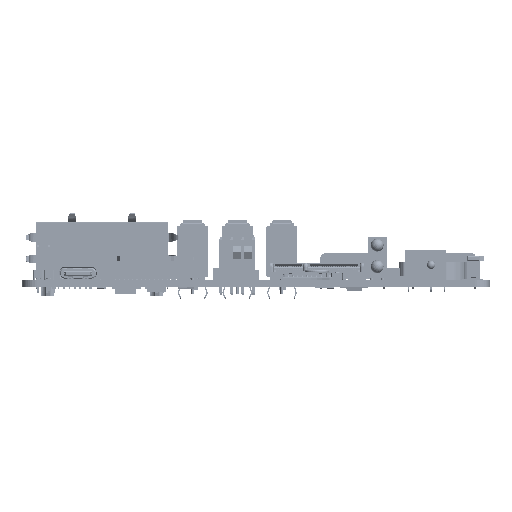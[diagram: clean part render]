
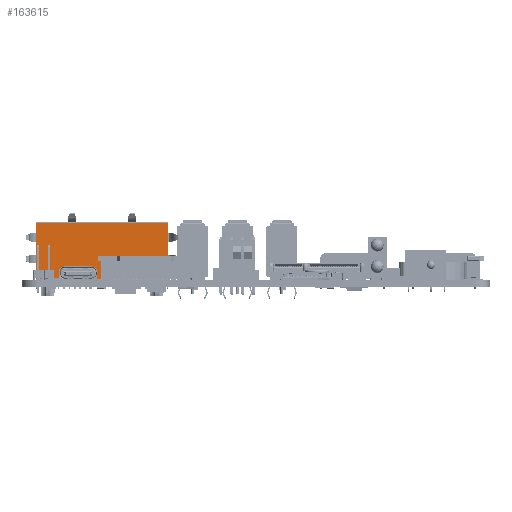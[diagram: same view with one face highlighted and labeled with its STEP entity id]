
A CAD part, left-side view. The second image highlights one B-rep face of the part: STEP entity #163615.
In plain terms, the highlighted planar face has unit normal (-1, 0, 0) as drawn and (0, 0, -1) by its records, which use the part's own axes.
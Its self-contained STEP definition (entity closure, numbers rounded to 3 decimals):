
#137574=DIRECTION('',(-1.,0.,0.));
#137575=VECTOR('',#137574,30.8);
#137576=CARTESIAN_POINT('',(15.4,13.3,-21.35));
#137577=LINE('',#137576,#137575);
#147750=DIRECTION('',(0.,-1.,0.));
#147751=VECTOR('',#147750,13.);
#147752=CARTESIAN_POINT('',(15.4,13.3,-21.35));
#147753=LINE('',#147752,#147751);
#147757=DIRECTION('',(0.,-1.,0.));
#147758=VECTOR('',#147757,13.);
#147759=CARTESIAN_POINT('',(-15.4,13.3,-21.35));
#147760=LINE('',#147759,#147758);
#147764=DIRECTION('',(-1.,0.,0.));
#147765=VECTOR('',#147764,14.9);
#147766=CARTESIAN_POINT('',(-0.5,0.3,-21.35));
#147767=LINE('',#147766,#147765);
#147771=DIRECTION('',(-0.287,0.958,0.));
#147772=VECTOR('',#147771,1.044);
#147773=CARTESIAN_POINT('',(-0.2,-2.1,-21.35));
#147774=LINE('',#147773,#147772);
#147778=DIRECTION('',(-0.287,-0.958,0.));
#147779=VECTOR('',#147778,1.044);
#147780=CARTESIAN_POINT('',(0.5,-1.1,-21.35));
#147781=LINE('',#147780,#147779);
#147785=DIRECTION('',(-1.,0.,0.));
#147786=VECTOR('',#147785,14.9);
#147787=CARTESIAN_POINT('',(15.4,0.3,-21.35));
#147788=LINE('',#147787,#147786);
#147792=DIRECTION('',(0.,-1.,0.));
#147793=VECTOR('',#147792,1.4);
#147794=CARTESIAN_POINT('',(-0.5,0.3,-21.35));
#147795=LINE('',#147794,#147793);
#149136=DIRECTION('',(0.,1.,0.));
#149137=VECTOR('',#149136,1.4);
#149138=CARTESIAN_POINT('',(0.5,-1.1,-21.35));
#149139=LINE('',#149138,#149137);
#149157=DIRECTION('',(1.,0.,0.));
#149158=VECTOR('',#149157,0.4);
#149159=CARTESIAN_POINT('',(-0.2,-2.1,-21.35));
#149160=LINE('',#149159,#149158);
#150155=CARTESIAN_POINT('',(0.5,0.3,-21.35));
#150156=VERTEX_POINT('',#150155);
#150204=CARTESIAN_POINT('',(-0.5,0.3,-21.35));
#150206=VERTEX_POINT('',#150204);
#150845=CARTESIAN_POINT('',(0.5,-1.1,-21.35));
#150846=VERTEX_POINT('',#150845);
#150847=CARTESIAN_POINT('',(0.2,-2.1,-21.35));
#150848=VERTEX_POINT('',#150847);
#150849=CARTESIAN_POINT('',(-0.2,-2.1,-21.35));
#150850=VERTEX_POINT('',#150849);
#150851=CARTESIAN_POINT('',(-0.5,-1.1,-21.35));
#150852=VERTEX_POINT('',#150851);
#152361=CARTESIAN_POINT('',(15.4,13.3,-21.35));
#152363=VERTEX_POINT('',#152361);
#152365=CARTESIAN_POINT('',(-15.4,13.3,-21.35));
#152367=VERTEX_POINT('',#152365);
#152369=CARTESIAN_POINT('',(15.4,0.3,-21.35));
#152371=VERTEX_POINT('',#152369);
#152377=CARTESIAN_POINT('',(-15.4,0.3,-21.35));
#152379=VERTEX_POINT('',#152377);
#163593=CARTESIAN_POINT('',(-15.62,0.,-21.35));
#163594=DIRECTION('',(0.,0.,-1.));
#163595=DIRECTION('',(0.,-1.,0.));
#163596=AXIS2_PLACEMENT_3D('',#163593,#163594,#163595);
#163597=PLANE('',#163596);
#163598=ORIENTED_EDGE('',*,*,#155463,.F.);
#163599=ORIENTED_EDGE('',*,*,#155443,.T.);
#163600=ORIENTED_EDGE('',*,*,#155219,.T.);
#163601=ORIENTED_EDGE('',*,*,#152844,.F.);
#163603=ORIENTED_EDGE('',*,*,#163602,.T.);
#163605=ORIENTED_EDGE('',*,*,#163604,.F.);
#163607=ORIENTED_EDGE('',*,*,#163606,.T.);
#163609=ORIENTED_EDGE('',*,*,#163608,.F.);
#163611=ORIENTED_EDGE('',*,*,#163610,.T.);
#163612=ORIENTED_EDGE('',*,*,#152748,.F.);
#163613=EDGE_LOOP('',(#163598,#163599,#163600,#163601,#163603,#163605,#163607,
#163609,#163611,#163612));
#163614=FACE_OUTER_BOUND('',#163613,.F.);
#163615=ADVANCED_FACE('',(#163614),#163597,.T.);
#152748=EDGE_CURVE('',#152371,#150156,#147788,.T.);
#152844=EDGE_CURVE('',#150206,#152379,#147767,.T.);
#155219=EDGE_CURVE('',#152367,#152379,#147760,.T.);
#155443=EDGE_CURVE('',#152363,#152367,#137577,.T.);
#155463=EDGE_CURVE('',#152363,#152371,#147753,.T.);
#163602=EDGE_CURVE('',#150206,#150852,#147795,.T.);
#163604=EDGE_CURVE('',#150850,#150852,#147774,.T.);
#163606=EDGE_CURVE('',#150850,#150848,#149160,.T.);
#163608=EDGE_CURVE('',#150846,#150848,#147781,.T.);
#163610=EDGE_CURVE('',#150846,#150156,#149139,.T.);
